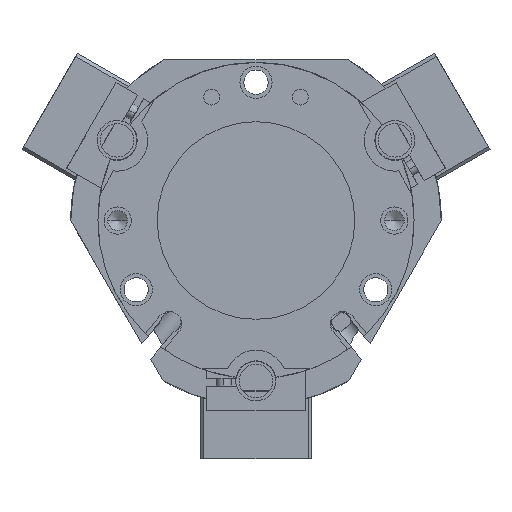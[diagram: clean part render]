
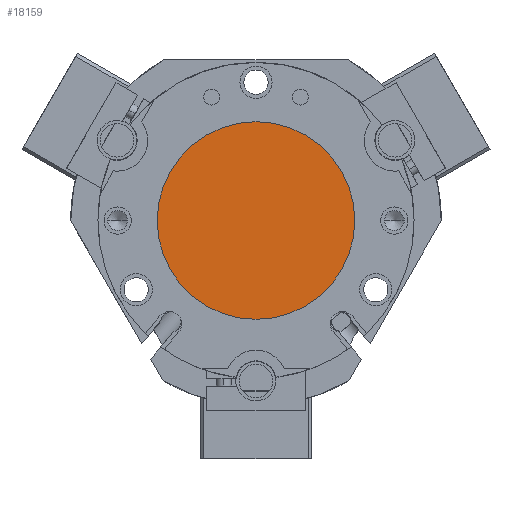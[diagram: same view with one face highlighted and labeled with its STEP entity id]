
A CAD part, front view. The second image highlights one B-rep face of the part: STEP entity #18159.
In plain terms, the highlighted planar face has unit normal (0, -1, 0) as drawn and (0, 1, 0) by its records, which use the part's own axes.
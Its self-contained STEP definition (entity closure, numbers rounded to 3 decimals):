
#1785 = FACE_OUTER_BOUND ( 'NONE', #17443, .T. ) ;
#2806 = CARTESIAN_POINT ( 'NONE',  ( 0., 3.8, -20. ) ) ;
#4255 = CARTESIAN_POINT ( 'NONE',  ( 0., 3.8, 0. ) ) ;
#4520 = ORIENTED_EDGE ( 'NONE', *, *, #14291, .T. ) ;
#4821 = DIRECTION ( 'NONE',  ( 0., 1., 0. ) ) ;
#4934 = CIRCLE ( 'NONE', #19286, 20. ) ;
#5300 = CARTESIAN_POINT ( 'NONE',  ( 0., 3.8, 0. ) ) ;
#5743 = DIRECTION ( 'NONE',  ( 0., 0., -1. ) ) ;
#6964 = CIRCLE ( 'NONE', #17950, 20. ) ;
#7235 = EDGE_CURVE ( 'NONE', #18675, #16118, #6964, .T. ) ;
#8318 = DIRECTION ( 'NONE',  ( 0., 0., 1. ) ) ;
#9599 = CARTESIAN_POINT ( 'NONE',  ( 0., 3.8, 20. ) ) ;
#9855 = ORIENTED_EDGE ( 'NONE', *, *, #7235, .T. ) ;
#11700 = AXIS2_PLACEMENT_3D ( 'NONE', #5300, #17268, #8318 ) ;
#13778 = CARTESIAN_POINT ( 'NONE',  ( 0., 3.8, 0. ) ) ;
#14291 = EDGE_CURVE ( 'NONE', #16118, #18675, #4934, .T. ) ;
#14711 = DIRECTION ( 'NONE',  ( 0., 1., 0. ) ) ;
#15292 = DIRECTION ( 'NONE',  ( 0., 0., -1. ) ) ;
#15777 = PLANE ( 'NONE',  #11700 ) ;
#16118 = VERTEX_POINT ( 'NONE', #2806 ) ;
#17268 = DIRECTION ( 'NONE',  ( 0., 1., 0. ) ) ;
#17443 = EDGE_LOOP ( 'NONE', ( #4520, #9855 ) ) ;
#17950 = AXIS2_PLACEMENT_3D ( 'NONE', #4255, #14711, #5743 ) ;
#18159 = ADVANCED_FACE ( 'NONE', ( #1785 ), #15777, .T. ) ;
#18675 = VERTEX_POINT ( 'NONE', #9599 ) ;
#19286 = AXIS2_PLACEMENT_3D ( 'NONE', #13778, #4821, #15292 ) ;
